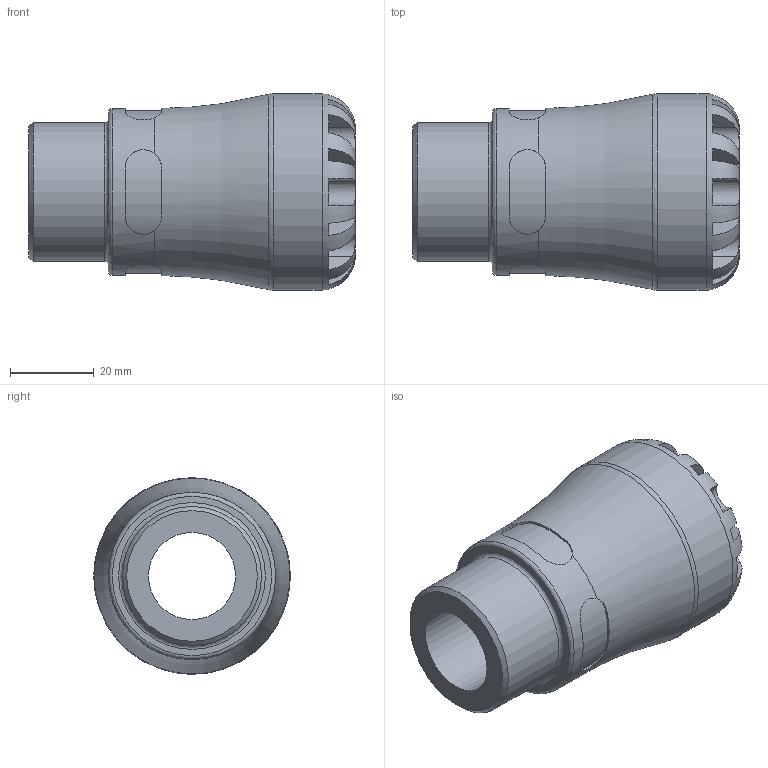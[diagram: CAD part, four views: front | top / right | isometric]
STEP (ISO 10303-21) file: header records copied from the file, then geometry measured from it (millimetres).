
FILE_DESCRIPTION(/* description */ ('PLASSON MALE ADAPTOR 25X1" SERIES 1'),/* implementation_level */ '2;1');
FILE_NAME(/* name */ 'C:\Dropbox\KIMPROJECTS-Inventor\99-16-3568-Processing\S1\1002\100200025010_190200025010.ipt.stp',/* time_stamp */ '2017-07-27T14:39:22+03:00',/* author */ ('KIM'),/* organization */ (''),/* preprocessor_version */ 'ST-DEVELOPER v15.6',/* originating_system */ 'Autodesk Inventor 2015',/* authorisation */ '');
FILE_SCHEMA (('AUTOMOTIVE_DESIGN { 1 0 10303 214 3 1 1 }'));
Length unit declared in the file: millimetre
Products named in the file (1): 100200025010_190200025010
Bounding box: 78 x 47 x 47 mm (x, y, z)
Volume: 66301.8 mm3; surface area: 18679.8 mm2
Topology: 1 solids, 1 shells, 100 faces, 257 edges, 161 vertices
Faces by surface type: plane 60, cylinder 33, torus 5, cone 2
Full cylindrical faces by diameter (mm): 20.833 x1, 25 x1, 33.249 x1, 39.95 x1, 47 x1
Entity records: 3784 total; most frequent: CARTESIAN_POINT 1465, ORIENTED_EDGE 484, DIRECTION 462, EDGE_CURVE 242, AXIS2_PLACEMENT_3D 191, VERTEX_POINT 158, EDGE_LOOP 116, FACE_OUTER_BOUND 100
